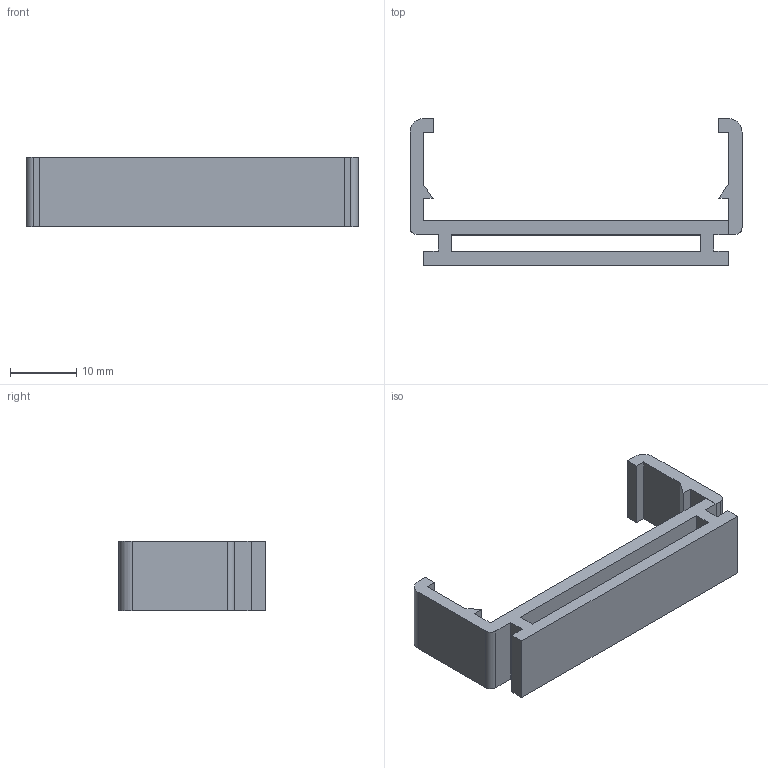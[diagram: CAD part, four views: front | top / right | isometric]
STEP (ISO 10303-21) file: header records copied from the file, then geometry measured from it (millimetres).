
FILE_DESCRIPTION(/* description */ ('Alibre Inc.'),/* implementation_level */ '2;1');
FILE_NAME(/* name */ 'export0',/* time_stamp */ '2018-08-03T14:57:30-04:00',/* author */ (''),/* organization */ (''),/* preprocessor_version */ 'ST-DEVELOPER v17',/* originating_system */ 'Alibre',/* authorisation */ '');
FILE_SCHEMA (('AUTOMOTIVE_DESIGN'));
Length unit declared in the file: millimetre
Bounding box: 50.25 x 22.14 x 10.5 mm (x, y, z)
Volume: 2953.9 mm3; surface area: 3468.2 mm2
Topology: 2 solids, 2 shells, 40 faces, 108 edges, 72 vertices
Faces by surface type: plane 36, cylinder 4
Entity records: 1222 total; most frequent: CARTESIAN_POINT 220, ORIENTED_EDGE 216, DIRECTION 160, EDGE_CURVE 108, VECTOR 100, LINE 100, VERTEX_POINT 72, AXIS2_PLACEMENT_3D 48
